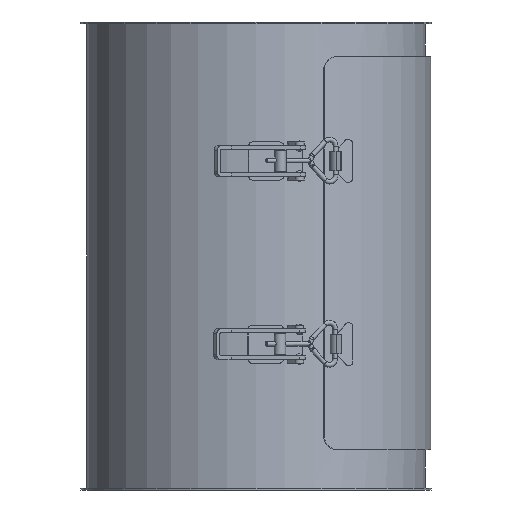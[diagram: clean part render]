
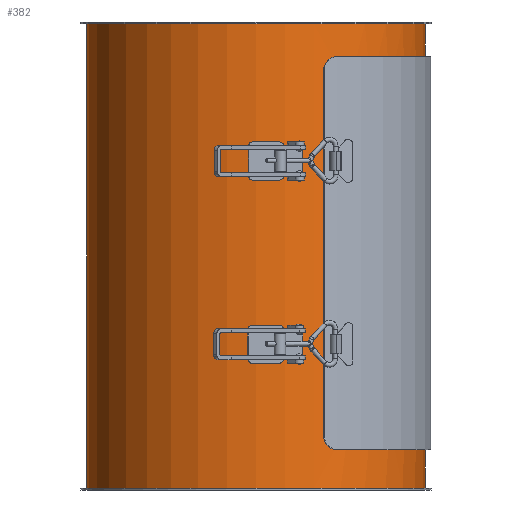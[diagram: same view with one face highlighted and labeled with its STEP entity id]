
A CAD part, left-side view. The second image highlights one B-rep face of the part: STEP entity #382.
In plain terms, the highlighted cylindrical face has radius 176.5 mm (diameter 353 mm), a full revolution.
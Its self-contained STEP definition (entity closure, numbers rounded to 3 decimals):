
#123=CARTESIAN_POINT('',(-147.5,-96.933,69.));
#124=VERTEX_POINT('',#123);
#131=CARTESIAN_POINT('',(147.5,-96.933,69.));
#132=VERTEX_POINT('',#131);
#133=CARTESIAN_POINT('',(0.0,0.0,69.));
#134=DIRECTION('',(0.0,0.0,-1.0));
#135=DIRECTION('',(-1.0,0.0,0.0));
#136=AXIS2_PLACEMENT_3D('',#133,#134,#135);
#137=CIRCLE('',#136,176.5);
#138=EDGE_CURVE('',#132,#124,#137,.T.);
#163=CARTESIAN_POINT('',(147.5,-96.933,419.0));
#164=VERTEX_POINT('',#163);
#165=CARTESIAN_POINT('',(147.5,-96.933,419.0));
#166=DIRECTION('',(0.0,0.0,-1.0));
#167=VECTOR('',#166,350.);
#168=LINE('',#165,#167);
#169=EDGE_CURVE('',#164,#132,#168,.T.);
#195=CARTESIAN_POINT('',(-147.5,-96.933,419.));
#196=VERTEX_POINT('',#195);
#197=CARTESIAN_POINT('',(0.0,0.0,419.));
#198=DIRECTION('',(0.0,0.0,1.0));
#199=DIRECTION('',(-1.0,0.0,0.0));
#200=AXIS2_PLACEMENT_3D('',#197,#198,#199);
#201=CIRCLE('',#200,176.5);
#202=EDGE_CURVE('',#196,#164,#201,.T.);
#225=CARTESIAN_POINT('',(-147.5,-96.933,69.));
#226=DIRECTION('',(0.0,0.0,1.0));
#227=VECTOR('',#226,350.0);
#228=LINE('',#225,#227);
#229=EDGE_CURVE('',#124,#196,#228,.T.);
#271=CARTESIAN_POINT('',(-176.5,0.,2.0));
#272=VERTEX_POINT('',#271);
#273=CARTESIAN_POINT('',(0.0,0.0,2.0));
#274=DIRECTION('',(0.0,0.0,1.0));
#275=DIRECTION('',(-1.0,0.0,0.0));
#276=AXIS2_PLACEMENT_3D('',#273,#274,#275);
#277=CIRCLE('',#276,176.5);
#278=EDGE_CURVE('',#272,#272,#277,.T.);
#319=CARTESIAN_POINT('',(176.5,0.,486.0));
#320=VERTEX_POINT('',#319);
#321=CARTESIAN_POINT('',(0.0,0.0,486.0));
#322=DIRECTION('',(0.0,0.0,-1.0));
#323=DIRECTION('',(-1.0,0.0,0.0));
#324=AXIS2_PLACEMENT_3D('',#321,#322,#323);
#325=CIRCLE('',#324,176.5);
#326=EDGE_CURVE('',#320,#320,#325,.T.);
#365=CARTESIAN_POINT('',(0.0,0.0,0.0));
#366=DIRECTION('',(0.0,0.0,1.0));
#367=DIRECTION('',(-1.0,0.0,0.0));
#368=AXIS2_PLACEMENT_3D('',#365,#366,#367);
#369=CYLINDRICAL_SURFACE('',#368,176.5);
#370=ORIENTED_EDGE('',*,*,#278,.T.);
#371=EDGE_LOOP('',(#370));
#372=FACE_OUTER_BOUND('',#371,.T.);
#373=ORIENTED_EDGE('',*,*,#202,.T.);
#374=ORIENTED_EDGE('',*,*,#169,.T.);
#375=ORIENTED_EDGE('',*,*,#138,.T.);
#376=ORIENTED_EDGE('',*,*,#229,.T.);
#377=EDGE_LOOP('',(#373,#374,#375,#376));
#378=FACE_BOUND('',#377,.T.);
#379=ORIENTED_EDGE('',*,*,#326,.T.);
#380=EDGE_LOOP('',(#379));
#381=FACE_BOUND('',#380,.T.);
#382=ADVANCED_FACE('',(#372,#378,#381),#369,.T.);
